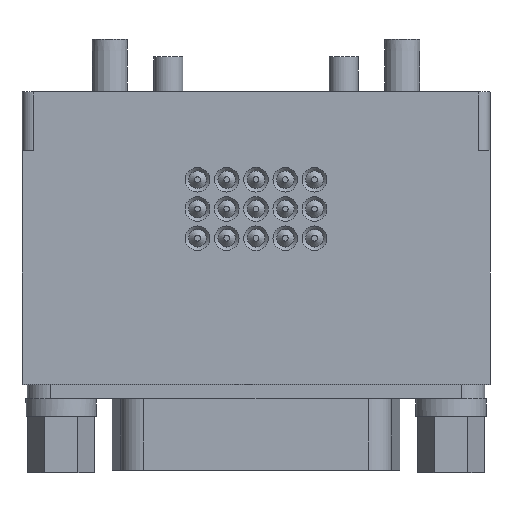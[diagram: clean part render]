
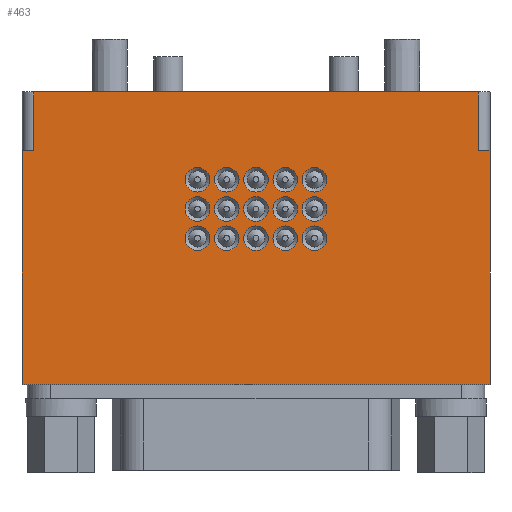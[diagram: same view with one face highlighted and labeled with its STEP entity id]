
A CAD part, top view. The second image highlights one B-rep face of the part: STEP entity #463.
In plain terms, the highlighted planar face has unit normal (0, 0, 1).
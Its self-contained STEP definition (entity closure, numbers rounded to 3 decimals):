
#463=ADVANCED_FACE('',(#1176,#1177,#1178,#1179,#1180,#1181,#1182,#1183,#1184,#1185,#1186,#1187,#1188,#1189,#1190,#1191),#1192,.F.);
#1176=FACE_BOUND('',#2271,.T.);
#1177=FACE_BOUND('',#2272,.T.);
#1178=FACE_BOUND('',#2273,.T.);
#1179=FACE_BOUND('',#2274,.T.);
#1180=FACE_BOUND('',#2275,.T.);
#1181=FACE_BOUND('',#2276,.T.);
#1182=FACE_BOUND('',#2277,.T.);
#1183=FACE_BOUND('',#2278,.T.);
#1184=FACE_BOUND('',#2279,.T.);
#1185=FACE_BOUND('',#2280,.T.);
#1186=FACE_BOUND('',#2281,.T.);
#1187=FACE_BOUND('',#2282,.T.);
#1188=FACE_BOUND('',#2283,.T.);
#1189=FACE_BOUND('',#2284,.T.);
#1190=FACE_BOUND('',#2285,.T.);
#1191=FACE_OUTER_BOUND('',#2286,.T.);
#1192=PLANE('',#2287);
#2271=EDGE_LOOP('',(#3539));
#2272=EDGE_LOOP('',(#3540));
#2273=EDGE_LOOP('',(#3541));
#2274=EDGE_LOOP('',(#3542));
#2275=EDGE_LOOP('',(#3543));
#2276=EDGE_LOOP('',(#3544));
#2277=EDGE_LOOP('',(#3545));
#2278=EDGE_LOOP('',(#3546));
#2279=EDGE_LOOP('',(#3547));
#2280=EDGE_LOOP('',(#3548));
#2281=EDGE_LOOP('',(#3549));
#2282=EDGE_LOOP('',(#3550));
#2283=EDGE_LOOP('',(#3551));
#2284=EDGE_LOOP('',(#3552));
#2285=EDGE_LOOP('',(#3553));
#2286=EDGE_LOOP('',(#3554,#3555,#3556,#3557,#3558,#3559,#3560,#3561));
#2287=AXIS2_PLACEMENT_3D('',#3562,#3563,#3564);
#3539=ORIENTED_EDGE('',*,*,#5697,.T.);
#3540=ORIENTED_EDGE('',*,*,#5698,.T.);
#3541=ORIENTED_EDGE('',*,*,#5699,.T.);
#3542=ORIENTED_EDGE('',*,*,#5700,.T.);
#3543=ORIENTED_EDGE('',*,*,#5701,.T.);
#3544=ORIENTED_EDGE('',*,*,#5702,.T.);
#3545=ORIENTED_EDGE('',*,*,#5703,.T.);
#3546=ORIENTED_EDGE('',*,*,#5704,.T.);
#3547=ORIENTED_EDGE('',*,*,#5705,.T.);
#3548=ORIENTED_EDGE('',*,*,#5706,.T.);
#3549=ORIENTED_EDGE('',*,*,#5707,.T.);
#3550=ORIENTED_EDGE('',*,*,#5708,.T.);
#3551=ORIENTED_EDGE('',*,*,#5709,.T.);
#3552=ORIENTED_EDGE('',*,*,#5710,.T.);
#3553=ORIENTED_EDGE('',*,*,#5711,.T.);
#3554=ORIENTED_EDGE('',*,*,#5712,.T.);
#3555=ORIENTED_EDGE('',*,*,#5536,.T.);
#3556=ORIENTED_EDGE('',*,*,#5686,.T.);
#3557=ORIENTED_EDGE('',*,*,#5713,.T.);
#3558=ORIENTED_EDGE('',*,*,#5714,.T.);
#3559=ORIENTED_EDGE('',*,*,#5715,.T.);
#3560=ORIENTED_EDGE('',*,*,#5716,.T.);
#3561=ORIENTED_EDGE('',*,*,#5717,.F.);
#3562=CARTESIAN_POINT('',(-20.0,0.0,4.0));
#3563=DIRECTION('',(0.0,0.0,-1.0));
#3564=DIRECTION('',(0.0,-1.0,0.0));
#5536=EDGE_CURVE('',#6391,#6392,#6393,.T.);
#5686=EDGE_CURVE('',#6392,#6633,#6635,.T.);
#5697=EDGE_CURVE('',#6652,#6652,#6653,.T.);
#5698=EDGE_CURVE('',#6654,#6654,#6655,.T.);
#5699=EDGE_CURVE('',#6656,#6656,#6657,.T.);
#5700=EDGE_CURVE('',#6658,#6658,#6659,.T.);
#5701=EDGE_CURVE('',#6660,#6660,#6661,.T.);
#5702=EDGE_CURVE('',#6662,#6662,#6663,.T.);
#5703=EDGE_CURVE('',#6664,#6664,#6665,.T.);
#5704=EDGE_CURVE('',#6666,#6666,#6667,.T.);
#5705=EDGE_CURVE('',#6668,#6668,#6669,.T.);
#5706=EDGE_CURVE('',#6670,#6670,#6671,.T.);
#5707=EDGE_CURVE('',#6672,#6672,#6673,.T.);
#5708=EDGE_CURVE('',#6674,#6674,#6675,.T.);
#5709=EDGE_CURVE('',#6676,#6676,#6677,.T.);
#5710=EDGE_CURVE('',#6678,#6678,#6679,.T.);
#5711=EDGE_CURVE('',#6680,#6680,#6681,.T.);
#5712=EDGE_CURVE('',#6682,#6391,#6683,.T.);
#5713=EDGE_CURVE('',#6633,#6684,#6685,.T.);
#5714=EDGE_CURVE('',#6684,#6686,#6687,.T.);
#5715=EDGE_CURVE('',#6686,#6688,#6689,.T.);
#5716=EDGE_CURVE('',#6688,#6690,#6691,.T.);
#5717=EDGE_CURVE('',#6682,#6690,#6692,.T.);
#6391=VERTEX_POINT('',#7646);
#6392=VERTEX_POINT('',#7647);
#6393=LINE('',#7648,#7649);
#6633=VERTEX_POINT('',#7984);
#6635=LINE('',#7987,#7988);
#6652=VERTEX_POINT('',#8009);
#6653=CIRCLE('',#8010,1.05);
#6654=VERTEX_POINT('',#8011);
#6655=CIRCLE('',#8012,1.05);
#6656=VERTEX_POINT('',#8013);
#6657=CIRCLE('',#8014,1.05);
#6658=VERTEX_POINT('',#8015);
#6659=CIRCLE('',#8016,1.05);
#6660=VERTEX_POINT('',#8017);
#6661=CIRCLE('',#8018,1.05);
#6662=VERTEX_POINT('',#8019);
#6663=CIRCLE('',#8020,1.05);
#6664=VERTEX_POINT('',#8021);
#6665=CIRCLE('',#8022,1.05);
#6666=VERTEX_POINT('',#8023);
#6667=CIRCLE('',#8024,1.05);
#6668=VERTEX_POINT('',#8025);
#6669=CIRCLE('',#8026,1.05);
#6670=VERTEX_POINT('',#8027);
#6671=CIRCLE('',#8028,1.05);
#6672=VERTEX_POINT('',#8029);
#6673=CIRCLE('',#8030,1.05);
#6674=VERTEX_POINT('',#8031);
#6675=CIRCLE('',#8032,1.05);
#6676=VERTEX_POINT('',#8033);
#6677=CIRCLE('',#8034,1.05);
#6678=VERTEX_POINT('',#8035);
#6679=CIRCLE('',#8036,1.05);
#6680=VERTEX_POINT('',#8037);
#6681=CIRCLE('',#8038,1.05);
#6682=VERTEX_POINT('',#8039);
#6683=LINE('',#8040,#8041);
#6684=VERTEX_POINT('',#8042);
#6685=LINE('',#8043,#8044);
#6686=VERTEX_POINT('',#8045);
#6687=LINE('',#8046,#8047);
#6688=VERTEX_POINT('',#8048);
#6689=LINE('',#8049,#8050);
#6690=VERTEX_POINT('',#8051);
#6691=LINE('',#8052,#8053);
#6692=LINE('',#8054,#8055);
#7646=CARTESIAN_POINT('',(-19.0,-5.,4.));
#7647=CARTESIAN_POINT('',(-20.0,-5.,4.));
#7648=CARTESIAN_POINT('',(20.0,-5.,4.));
#7649=VECTOR('',#9286,1.0);
#7984=CARTESIAN_POINT('',(-20.0,-25.0,4.));
#7987=CARTESIAN_POINT('',(-20.0,-5.,4.));
#7988=VECTOR('',#9440,1.0);
#8009=CARTESIAN_POINT('',(-3.95,-7.5,4.));
#8010=AXIS2_PLACEMENT_3D('',#9454,#9455,#9456);
#8011=CARTESIAN_POINT('',(-3.95,-10.0,4.));
#8012=AXIS2_PLACEMENT_3D('',#9457,#9458,#9459);
#8013=CARTESIAN_POINT('',(-3.95,-12.5,4.));
#8014=AXIS2_PLACEMENT_3D('',#9460,#9461,#9462);
#8015=CARTESIAN_POINT('',(-1.45,-12.5,4.));
#8016=AXIS2_PLACEMENT_3D('',#9463,#9464,#9465);
#8017=CARTESIAN_POINT('',(-1.45,-10.0,4.));
#8018=AXIS2_PLACEMENT_3D('',#9466,#9467,#9468);
#8019=CARTESIAN_POINT('',(-1.45,-7.5,4.));
#8020=AXIS2_PLACEMENT_3D('',#9469,#9470,#9471);
#8021=CARTESIAN_POINT('',(1.05,-7.5,4.));
#8022=AXIS2_PLACEMENT_3D('',#9472,#9473,#9474);
#8023=CARTESIAN_POINT('',(1.05,-10.0,4.));
#8024=AXIS2_PLACEMENT_3D('',#9475,#9476,#9477);
#8025=CARTESIAN_POINT('',(1.05,-12.5,4.));
#8026=AXIS2_PLACEMENT_3D('',#9478,#9479,#9480);
#8027=CARTESIAN_POINT('',(3.55,-12.5,4.));
#8028=AXIS2_PLACEMENT_3D('',#9481,#9482,#9483);
#8029=CARTESIAN_POINT('',(3.55,-10.0,4.));
#8030=AXIS2_PLACEMENT_3D('',#9484,#9485,#9486);
#8031=CARTESIAN_POINT('',(3.55,-7.5,4.));
#8032=AXIS2_PLACEMENT_3D('',#9487,#9488,#9489);
#8033=CARTESIAN_POINT('',(6.05,-10.0,4.));
#8034=AXIS2_PLACEMENT_3D('',#9490,#9491,#9492);
#8035=CARTESIAN_POINT('',(6.05,-12.5,4.));
#8036=AXIS2_PLACEMENT_3D('',#9493,#9494,#9495);
#8037=CARTESIAN_POINT('',(6.05,-7.5,4.));
#8038=AXIS2_PLACEMENT_3D('',#9496,#9497,#9498);
#8039=CARTESIAN_POINT('',(-19.0,0.0,4.0));
#8040=CARTESIAN_POINT('',(-19.0,0.0,4.0));
#8041=VECTOR('',#9499,1.0);
#8042=CARTESIAN_POINT('',(20.0,-25.0,4.));
#8043=CARTESIAN_POINT('',(-20.0,-25.0,4.));
#8044=VECTOR('',#9500,1.0);
#8045=CARTESIAN_POINT('',(20.0,-5.,4.));
#8046=CARTESIAN_POINT('',(20.0,-25.0,4.));
#8047=VECTOR('',#9501,1.0);
#8048=CARTESIAN_POINT('',(19.0,-5.,4.));
#8049=CARTESIAN_POINT('',(20.0,-5.,4.));
#8050=VECTOR('',#9502,1.0);
#8051=CARTESIAN_POINT('',(19.0,0.0,4.0));
#8052=CARTESIAN_POINT('',(19.0,0.0,4.0));
#8053=VECTOR('',#9503,1.0);
#8054=CARTESIAN_POINT('',(-20.0,0.0,4.0));
#8055=VECTOR('',#9504,1.0);
#9286=DIRECTION('',(-1.0,0.0,0.0));
#9440=DIRECTION('',(0.0,-1.0,0.0));
#9454=CARTESIAN_POINT('',(-5.0,-7.5,4.));
#9455=DIRECTION('',(0.0,0.0,-1.0));
#9456=DIRECTION('',(1.0,0.0,0.0));
#9457=CARTESIAN_POINT('',(-5.0,-10.0,4.));
#9458=DIRECTION('',(0.0,0.0,-1.0));
#9459=DIRECTION('',(1.0,0.0,0.0));
#9460=CARTESIAN_POINT('',(-5.0,-12.5,4.));
#9461=DIRECTION('',(0.0,0.0,-1.0));
#9462=DIRECTION('',(1.0,0.0,0.0));
#9463=CARTESIAN_POINT('',(-2.5,-12.5,4.));
#9464=DIRECTION('',(0.0,0.0,-1.0));
#9465=DIRECTION('',(1.0,0.0,0.0));
#9466=CARTESIAN_POINT('',(-2.5,-10.0,4.));
#9467=DIRECTION('',(0.0,0.0,-1.0));
#9468=DIRECTION('',(1.0,0.0,0.0));
#9469=CARTESIAN_POINT('',(-2.5,-7.5,4.));
#9470=DIRECTION('',(0.0,0.0,-1.0));
#9471=DIRECTION('',(1.0,0.0,0.0));
#9472=CARTESIAN_POINT('',(0.,-7.5,4.));
#9473=DIRECTION('',(0.0,0.0,-1.0));
#9474=DIRECTION('',(1.0,0.0,0.0));
#9475=CARTESIAN_POINT('',(0.,-10.0,4.));
#9476=DIRECTION('',(0.0,0.0,-1.0));
#9477=DIRECTION('',(1.0,0.0,0.0));
#9478=CARTESIAN_POINT('',(0.,-12.5,4.));
#9479=DIRECTION('',(0.0,0.0,-1.0));
#9480=DIRECTION('',(1.0,0.0,0.0));
#9481=CARTESIAN_POINT('',(2.5,-12.5,4.));
#9482=DIRECTION('',(0.0,0.0,-1.0));
#9483=DIRECTION('',(1.0,0.0,0.0));
#9484=CARTESIAN_POINT('',(2.5,-10.0,4.));
#9485=DIRECTION('',(0.0,0.0,-1.0));
#9486=DIRECTION('',(1.0,0.0,0.0));
#9487=CARTESIAN_POINT('',(2.5,-7.5,4.));
#9488=DIRECTION('',(0.0,0.0,-1.0));
#9489=DIRECTION('',(1.0,0.0,0.0));
#9490=CARTESIAN_POINT('',(5.0,-10.0,4.));
#9491=DIRECTION('',(0.0,0.0,-1.0));
#9492=DIRECTION('',(1.0,0.0,0.0));
#9493=CARTESIAN_POINT('',(5.0,-12.5,4.));
#9494=DIRECTION('',(0.0,0.0,-1.0));
#9495=DIRECTION('',(1.0,0.0,0.0));
#9496=CARTESIAN_POINT('',(5.0,-7.5,4.));
#9497=DIRECTION('',(0.0,0.0,-1.0));
#9498=DIRECTION('',(1.0,0.0,0.0));
#9499=DIRECTION('',(0.0,-1.0,0.0));
#9500=DIRECTION('',(1.0,0.0,0.0));
#9501=DIRECTION('',(0.0,1.0,0.0));
#9502=DIRECTION('',(-1.0,0.0,0.0));
#9503=DIRECTION('',(0.0,1.0,0.0));
#9504=DIRECTION('',(1.0,0.0,0.0));
